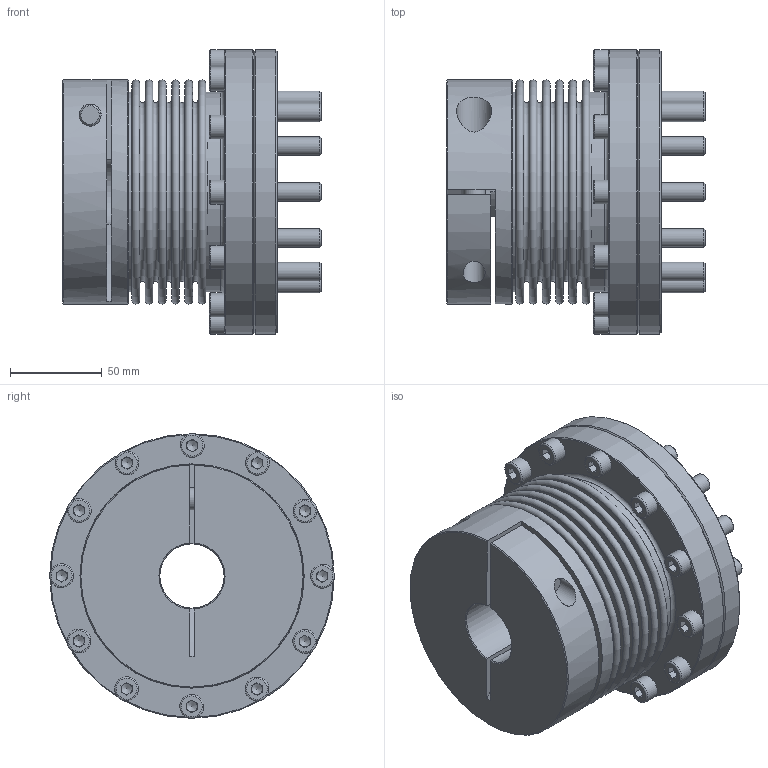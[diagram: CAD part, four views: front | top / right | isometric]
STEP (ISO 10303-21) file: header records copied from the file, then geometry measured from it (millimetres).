
FILE_DESCRIPTION( ( 'Unknown' ), '1' );
FILE_NAME( 'C:/Users/skarpstein/Desktop/KB4F/KB4F-500-111.stp', 'Unknown', ( 'Unknown' ), ( 'Unknown' ), 'PSStep 16.0.42', 'Unknown', ' ' );
FILE_SCHEMA( ( 'AUTOMOTIVE_DESIGN { 1 0 10303 214 1 1 1 1 }' ) );
Length unit declared in the file: millimetre
Products named in the file (8): Assem1; Socket Head Cap Screw_DIN_DIN 912 M12 x 55 --- 55N_1; KN500C_Standard; ISO 4017 - M10 x 40-N; Kupplungsflansch F500; Flansch A100-F500; Socket Head Cap Screw_DIN_DIN 912 M8 x 25 --- 25N; BL500_Standard_2
Assembly tree (29 placements, depth 2):
  Assem1
    Socket Head Cap Screw_DIN_DIN 912 M12 x 55 --- 55N_1
    KN500C_Standard
    ISO 4017 - M10 x 40-N  x12
    Kupplungsflansch F500
    Flansch A100-F500
    Socket Head Cap Screw_DIN_DIN 912 M8 x 25 --- 25N  x12
    BL500_Standard_2
Bounding box: 140.99 x 155 x 155 mm (x, y, z)
Volume: 815965.6 mm3; surface area: 314008.5 mm2
Topology: 29 solids, 29 shells, 711 faces, 1541 edges, 942 vertices
Faces by surface type: plane 419, cone 125, cylinder 105, torus 62
Full cylindrical faces by diameter (mm): 6.647 x12, 8 x12, 9 x12, 10 x12, 11 x12, 12 x2, 12.5 x1, 13 x12, 16 x12, 18 x1, 19 x1, 35 x1, 75 x1, 76 x1, 107.7 x3, 108.9 x2, 122 x1, 130 x3, 155 x2
Entity records: 7325 total; most frequent: CARTESIAN_POINT 1092, DIRECTION 987, ORIENTED_EDGE 640, AXIS2_PLACEMENT_3D 453, EDGE_LOOP 426, EDGE_CURVE 320, FACE_OUTER_BOUND 293, VERTEX_POINT 280
